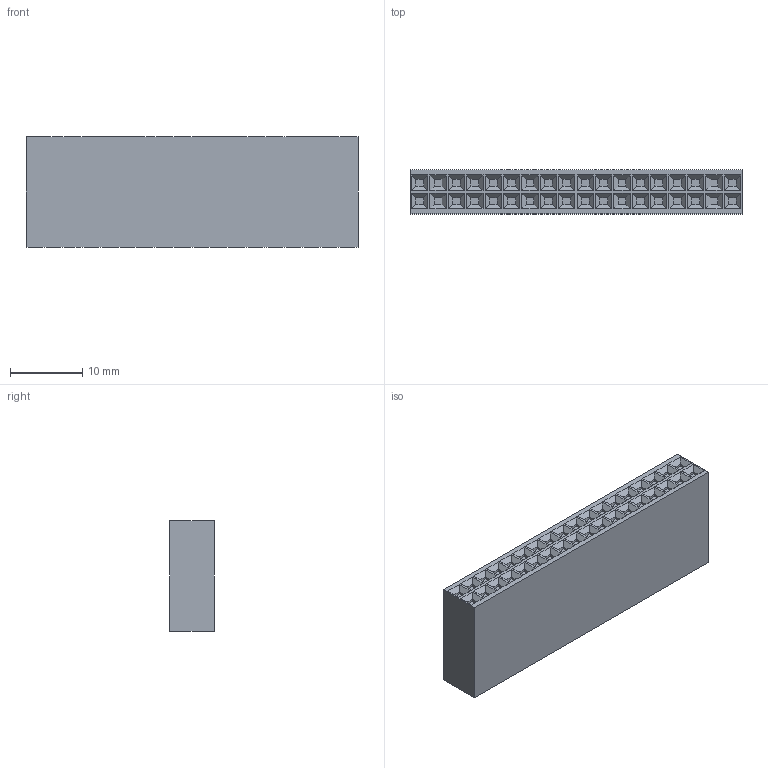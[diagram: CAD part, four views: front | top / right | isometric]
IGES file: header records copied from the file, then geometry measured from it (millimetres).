
Start section:  PTC IGES file: c-0087456-31-p-3d.igs
Global section: file name: c-0087456-31-p-3d.igs; native system: Pro/ENGINEER by Parametric Technology Corporation; preprocessor: 2005450; author: workeradm; organization: Unknown; date: 070905.002659; units: millimetre
Bounding box: 45.85 x 6.1 x 15.24 mm (x, y, z)
Surface area: 2527.1 mm2 (no closed solid volume)
Topology: 0 solids, 0 shells, 510 faces, 2328 edges, 2328 vertices
Faces by surface type: bspline 510
